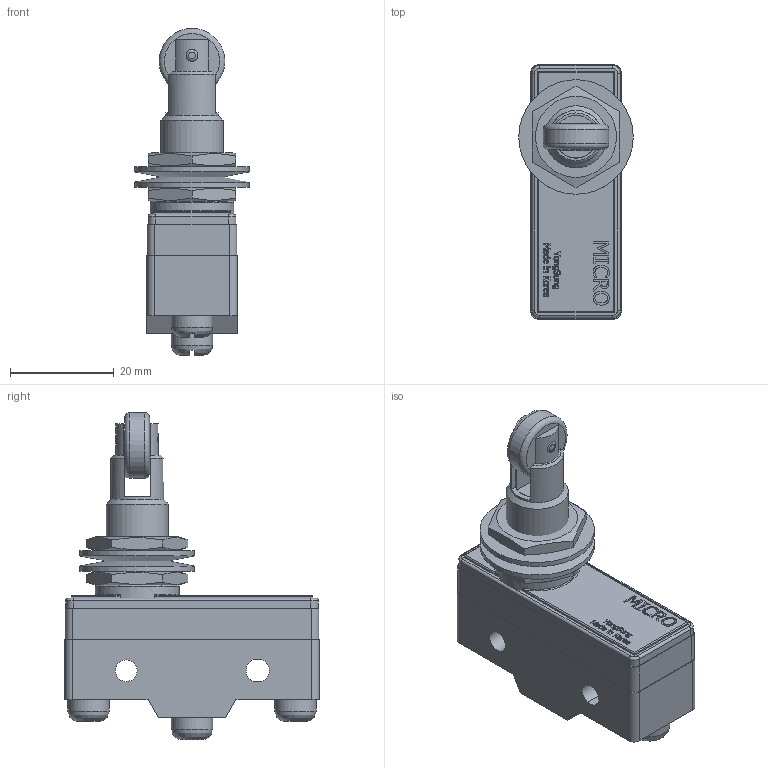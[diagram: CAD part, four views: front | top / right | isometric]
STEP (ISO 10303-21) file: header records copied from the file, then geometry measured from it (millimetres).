
FILE_DESCRIPTION(/* description */ (''),/* implementation_level */ '2;1');
FILE_NAME(/* name */ 'E:\Inventor 2016\제품 외형도\(\X2\C644B8CC\X0\) 리미트 스위치\교류용 마이크로 스위치 (Z형)\YSRP3515GW-B.stp',/* time_stamp */ '2019-04-09T09:56:29+09:00',/* author */ ('Kim'),/* organization */ (''),/* preprocessor_version */ 'ST-DEVELOPER v16.1',/* originating_system */ 'Autodesk Inventor 2016',/* authorisation */ '');
FILE_SCHEMA (('AUTOMOTIVE_DESIGN { 1 0 10303 214 3 1 1 }'));
Length unit declared in the file: millimetre
Products named in the file (1): YSRP3515GW-B
Bounding box: 22.13 x 49.2 x 63.2 mm (x, y, z)
Volume: 23792.1 mm3; surface area: 12453.8 mm2
Topology: 9 solids, 9 shells, 699 faces, 1860 edges, 1230 vertices
Faces by surface type: plane 378, bspline 260, cylinder 41, torus 11, cone 9
Full cylindrical faces by diameter (mm): 2.3 x4, 4.2 x1, 8 x3, 8.2 x1, 8.3 x1, 10.2 x2, 12 x1, 12.7 x1, 16.2 x1, 22.131 x2
Entity records: 23656 total; most frequent: CARTESIAN_POINT 7726, ORIENTED_EDGE 3646, DIRECTION 2239, EDGE_CURVE 1823, VERTEX_POINT 1223, LINE 1105, VECTOR 1105, EDGE_LOOP 786
